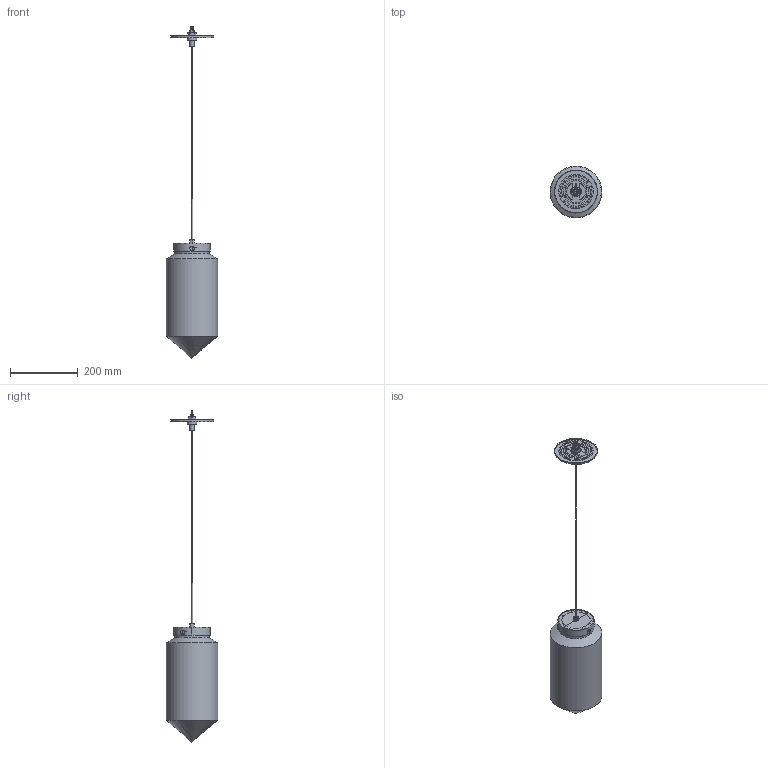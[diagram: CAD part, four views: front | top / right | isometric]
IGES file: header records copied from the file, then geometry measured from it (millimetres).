
Global section: file name: Niche - Dart Petite Pendant; native system: unknown; preprocessor: unknown; author: unknown; organization: unknown; date: 20220902.104052; units: inch
Bounding box: 152.4 x 152.39 x 980.33 mm (x, y, z)
Volume: 628412.6 mm3; surface area: 431304 mm2
Topology: 29 solids, 29 shells, 703 faces, 1771 edges, 1166 vertices
Faces by surface type: bspline 703
